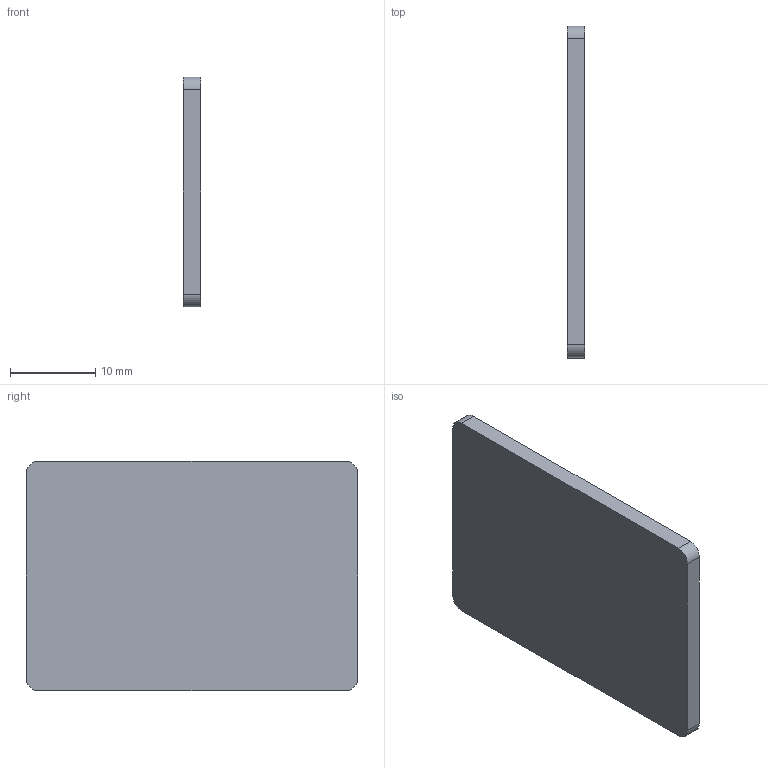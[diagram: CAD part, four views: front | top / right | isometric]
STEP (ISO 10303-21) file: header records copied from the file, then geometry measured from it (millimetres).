
FILE_DESCRIPTION(('Open CASCADE Model'),'2;1');
FILE_NAME('Open CASCADE Shape Model','2026-11-05T01:23:31',('Author'),( 'Open CASCADE'),'Open CASCADE STEP processor 7.8','Open CASCADE 7.8' ,'Unknown');
FILE_SCHEMA(('AUTOMOTIVE_DESIGN { 1 0 10303 214 1 1 1 1 }'));
Length unit declared in the file: millimetre
Products named in the file (1): Open CASCADE STEP translator 7.8 21
Bounding box: 2 x 39 x 27 mm (x, y, z)
Volume: 2102.1 mm3; surface area: 2361 mm2
Topology: 1 solids, 1 shells, 10 faces, 24 edges, 16 vertices
Faces by surface type: plane 6, cylinder 4
Entity records: 630 total; most frequent: CARTESIAN_POINT 123, DIRECTION 98, LINE 56, VECTOR 56, ORIENTED_EDGE 48, PCURVE 48, DEFINITIONAL_REPRESENTATION 48, EDGE_CURVE 24
